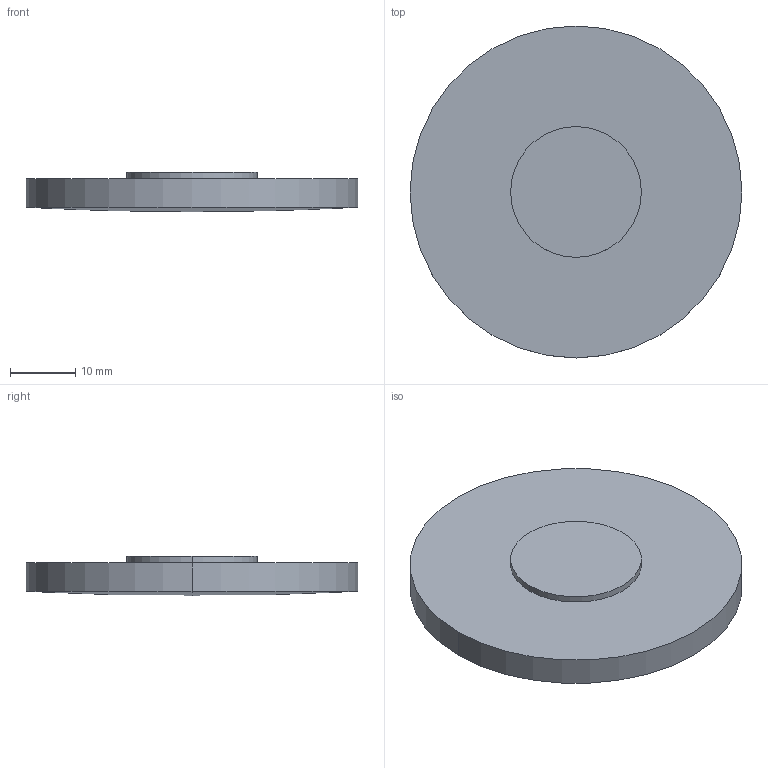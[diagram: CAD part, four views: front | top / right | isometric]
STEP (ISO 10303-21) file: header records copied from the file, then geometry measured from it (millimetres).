
FILE_DESCRIPTION(('STEP AP214'),'1');
FILE_NAME('LLU-51-1M.STEP','2020-03-09T17:42:13',(' '),(' '),'Spatial InterOp 3D',' ',' ');
FILE_SCHEMA(('AUTOMOTIVE_DESIGN { 1 0 10303 214 1 1 1 1 }'));
Length unit declared in the file: millimetre
Products named in the file (1): 1
Bounding box: 50.8 x 50.8 x 6 mm (x, y, z)
Volume: 9794.2 mm3; surface area: 5441.1 mm2
Topology: 2 solids, 2 shells, 9 faces, 16 edges, 9 vertices
Faces by surface type: cylinder 4, plane 3, sphere 2
Entity records: 229 total; most frequent: DIRECTION 46, CARTESIAN_POINT 34, ORIENTED_EDGE 28, AXIS2_PLACEMENT_3D 21, EDGE_CURVE 14, CIRCLE 10, ADVANCED_FACE 9, FACE_OUTER_BOUND 9
